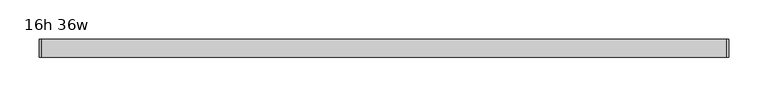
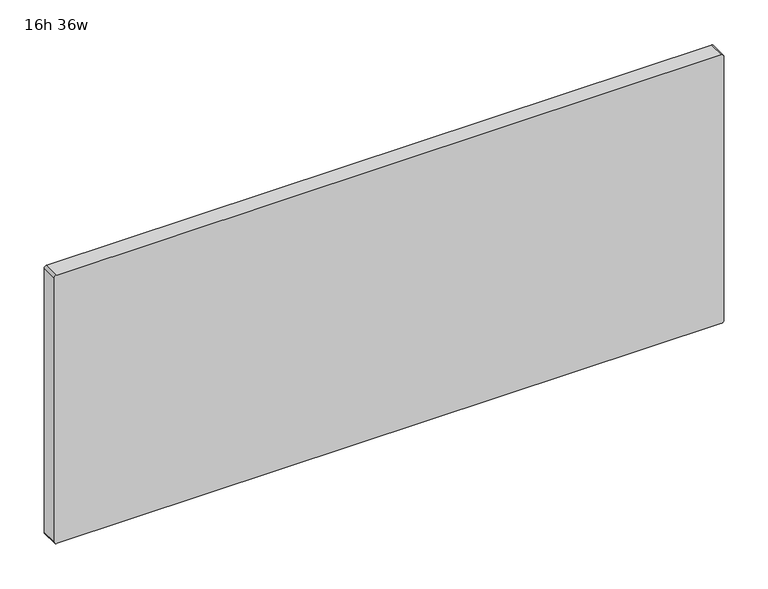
"""IFC4 building model written with IfcOpenShell, lengths in millimetres: furniture geometry, Haworth_BeHold_Accessory_Tackboard : 16h 36w."""

from ifc_helpers import new_model, si_unit, point, frame, frame_2d, origin, place, context, project, spatial, polyline, circle_curve, trimmed, segment, composite_curve, outline, extrude, source, transform, mapped, element, save


def furniture_16h_36w_739b73f6(model_context):
    return source(origin(), model_context, "Body", "SweptSolid", [
        extrude(outline(composite_curve([segment(polyline([(1290.6375, 276.2306884), (1290.6375, -589.9489991)]), True, "CONTINUOUS"), segment(trimmed(circle_curve(frame_2d((1287.4625, -589.9489991)), 3.175), [point((1290.6375, -589.9489991))], [point((1287.4625, -593.1239991))], False, "CARTESIAN"), True, "CONTINUOUS"), segment(polyline([(1287.4625, -593.1239991), (923.9448257, -593.1239991)]), True, "CONTINUOUS"), segment(trimmed(circle_curve(frame_2d((923.9448257, -589.9291734)), 3.1948257), [point((923.9448257, -593.1239991))], [point((920.75, -589.9291734))], False, "CARTESIAN"), True, "CONTINUOUS"), segment(polyline([(920.75, -589.9291734), (920.75, 276.2306884)]), True, "CONTINUOUS"), segment(trimmed(circle_curve(frame_2d((923.925, 276.2306884)), 3.175), [point((920.75, 276.2306884))], [point((923.925, 279.4056884))], False, "CARTESIAN"), True, "CONTINUOUS"), segment(polyline([(923.925, 279.4056884), (1287.4625, 279.4056884)]), True, "CONTINUOUS"), segment(trimmed(circle_curve(frame_2d((1287.4625, 276.2306884)), 3.175), [point((1287.4625, 279.4056884))], [point((1290.6375, 276.2306884))], False, "CARTESIAN"), True, "CONTINUOUS")], self_intersect=False)), frame((0.0, 280.9875, 0.0), z_axis=(0.0, 1.0, 0.0), x_axis=(0.0, 0.0, 1.0)), (0.0, 0.0, 1.0), 22.225),
    ])


if __name__ == "__main__":
    model = new_model("IFC4")
    model_context = context("Model", 3, world=origin())
    ifc_project = project(units=[si_unit("LENGTHUNIT", "METRE", prefix="MILLI")], contexts=[model_context])
    site = spatial("IfcSite", under=ifc_project)
    building = spatial("IfcBuilding", under=site)
    placement = place(None, origin())
    furniture_16h_36w_shape = furniture_16h_36w_739b73f6(model_context)
    element("IfcFurniture", 1, ObjectType="Haworth_BeHold_Accessory_Tackboard : 16h 36w", at=placement, inside=building, context=model_context, shape_type="MappedRepresentation", body=[
        mapped(furniture_16h_36w_shape, transform((0.0, 0.0, 0.0), x_axis=(1.0, 0.0, 0.0), y_axis=(0.0, 1.0, 0.0), z_axis=(0.0, 0.0, 1.0))),
    ])
    save(model, "model.ifc")
